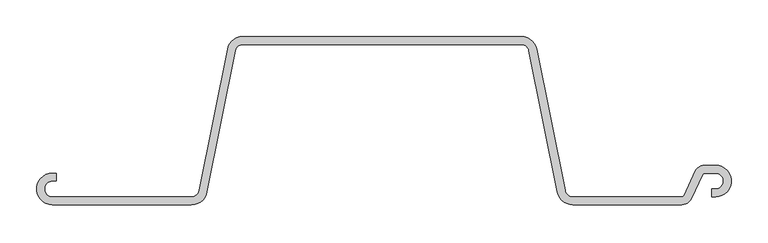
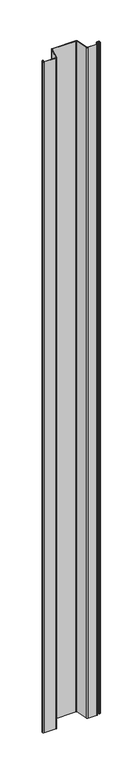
"""IFC4 building model written with IfcOpenShell, lengths in millimetres: proxy geometry, 鋼矢板10H型 : 鋼矢板10H型."""

from ifc_helpers import new_model, si_unit, point, frame, frame_2d, origin, place, context, project, spatial, polyline, circle_curve, trimmed, segment, composite_curve, outline, extrude, source, transform, mapped, element, save


def generic_models_ca3dce07(model_context):
    return source(origin(), model_context, "Body", "SweptSolid", [
        extrude(outline(composite_curve([segment(trimmed(circle_curve(frame_2d((409.1972607, -101.1142857)), 13.8857143), [point((421.7819917, -106.9826421))], [point((409.1972607, -115.0))], False, "CARTESIAN"), True, "CONTINUOUS"), segment(polyline([(409.1972607, -115.0), (260.2008232, -115.0)]), True, "CONTINUOUS"), segment(trimmed(circle_curve(frame_2d((260.2008232, -93.4)), 21.6), [point((260.2008232, -115.0))], [point((239.0202806, -97.6361085))], False, "CARTESIAN"), True, "CONTINUOUS"), segment(polyline([(239.0202806, -97.6361085), (200.3894481, 95.5180543)]), True, "CONTINUOUS"), segment(trimmed(circle_curve(frame_2d((189.7991768, 93.4)), 10.8), [point((200.3894481, 95.5180543))], [point((189.7991768, 104.2))], True, "CARTESIAN"), True, "CONTINUOUS"), segment(polyline([(189.7991768, 104.2), (-189.7991768, 104.2)]), True, "CONTINUOUS"), segment(trimmed(circle_curve(frame_2d((-189.7991768, 93.4)), 10.8), [point((-189.7991768, 104.2))], [point((-200.3894481, 95.5180543))], True, "CARTESIAN"), True, "CONTINUOUS"), segment(polyline([(-200.3894481, 95.5180543), (-239.0202806, -97.6361085)]), True, "CONTINUOUS"), segment(trimmed(circle_curve(frame_2d((-260.2008232, -93.4)), 21.6), [point((-239.0202806, -97.6361085))], [point((-260.2008232, -115.0))], False, "CARTESIAN"), True, "CONTINUOUS"), segment(polyline([(-260.2008232, -115.0), (-450.0, -115.0)]), True, "CONTINUOUS"), segment(trimmed(circle_curve(frame_2d((-450.0, -93.4)), 21.6), [point((-450.0, -115.0))], [point((-450.0, -71.8))], False, "CARTESIAN"), True, "CONTINUOUS"), segment(polyline([(-450.0, -71.8), (-445.0, -71.8), (-445.0, -82.6), (-450.0, -82.6)]), True, "CONTINUOUS"), segment(trimmed(circle_curve(frame_2d((-450.0, -93.4)), 10.8), [point((-450.0, -82.6))], [point((-450.0, -104.2))], True, "CARTESIAN"), True, "CONTINUOUS"), segment(polyline([(-450.0, -104.2), (-260.2008232, -104.2)]), True, "CONTINUOUS"), segment(trimmed(circle_curve(frame_2d((-260.2008232, -93.4)), 10.8), [point((-260.2008232, -104.2))], [point((-249.6105519, -95.5180543))], True, "CARTESIAN"), True, "CONTINUOUS"), segment(polyline([(-249.6105519, -95.5180543), (-210.9797194, 97.6361085)]), True, "CONTINUOUS"), segment(trimmed(circle_curve(frame_2d((-189.7991768, 93.4)), 21.6), [point((-210.9797194, 97.6361085))], [point((-189.7991768, 115.0))], False, "CARTESIAN"), True, "CONTINUOUS"), segment(polyline([(-189.7991768, 115.0), (189.7991768, 115.0)]), True, "CONTINUOUS"), segment(trimmed(circle_curve(frame_2d((189.7991768, 93.4)), 21.6), [point((189.7991768, 115.0))], [point((210.9797194, 97.6361085))], False, "CARTESIAN"), True, "CONTINUOUS"), segment(polyline([(210.9797194, 97.6361085), (249.6105519, -95.5180543)]), True, "CONTINUOUS"), segment(trimmed(circle_curve(frame_2d((260.2008232, -93.4)), 10.8), [point((249.6105519, -95.5180543))], [point((260.2008232, -104.2))], True, "CARTESIAN"), True, "CONTINUOUS"), segment(polyline([(260.2008232, -104.2), (409.1972607, -104.2)]), True, "CONTINUOUS"), segment(trimmed(circle_curve(frame_2d((409.1972607, -101.1142857)), 3.0857143), [point((409.1972607, -104.2))], [point((411.9938676, -102.4183649))], True, "CARTESIAN"), True, "CONTINUOUS"), segment(polyline([(411.9938676, -102.4183649), (427.569013, -69.0173579)]), True, "CONTINUOUS"), segment(trimmed(circle_curve(frame_2d((440.153744, -74.8857143)), 13.8857143), [point((427.569013, -69.0173579))], [point((440.153744, -61.0))], False, "CARTESIAN"), True, "CONTINUOUS"), segment(polyline([(440.153744, -61.0), (455.0, -61.0)]), True, "CONTINUOUS"), segment(trimmed(circle_curve(frame_2d((455.0, -82.6)), 21.6), [point((455.0, -61.0))], [point((455.0, -104.2))], False, "CARTESIAN"), True, "CONTINUOUS"), segment(polyline([(455.0, -104.2), (450.0, -104.2), (450.0, -93.4), (455.0, -93.4)]), True, "CONTINUOUS"), segment(trimmed(circle_curve(frame_2d((455.0, -82.6)), 10.8), [point((455.0, -93.4))], [point((455.0, -71.8))], True, "CARTESIAN"), True, "CONTINUOUS"), segment(polyline([(455.0, -71.8), (440.153744, -71.8)]), True, "CONTINUOUS"), segment(trimmed(circle_curve(frame_2d((440.153744, -74.8857143)), 3.0857143), [point((440.153744, -71.8))], [point((437.3571371, -73.5816351))], True, "CARTESIAN"), True, "CONTINUOUS"), segment(polyline([(437.3571371, -73.5816351), (421.7819917, -106.9826421)]), True, "CONTINUOUS")], self_intersect=False)), frame((0.0, 0.0, -11500.0), z_axis=(0.0, 0.0, 1.0), x_axis=(1.0, 0.0, 0.0)), (0.0, 0.0, 1.0), 11500.0),
    ])


if __name__ == "__main__":
    model = new_model("IFC4")
    model_context = context("Model", 3, world=origin())
    ifc_project = project(units=[si_unit("LENGTHUNIT", "METRE", prefix="MILLI")], contexts=[model_context])
    site = spatial("IfcSite", under=ifc_project)
    building = spatial("IfcBuilding", under=site)
    placement = place(None, origin())
    generic_models_shape = generic_models_ca3dce07(model_context)
    element("IfcBuildingElementProxy", 1, Name="鋼矢板10H型 : 鋼矢板10H型", ObjectType="鋼矢板10H型 : 鋼矢板10H型", at=placement, inside=building, context=model_context, shape_type="MappedRepresentation", body=[
        mapped(generic_models_shape, transform((0.0, 0.0, 0.0), x_axis=(1.0, 0.0, 0.0), y_axis=(0.0, 1.0, 0.0), z_axis=(0.0, 0.0, 1.0))),
    ])
    save(model, "model.ifc")
